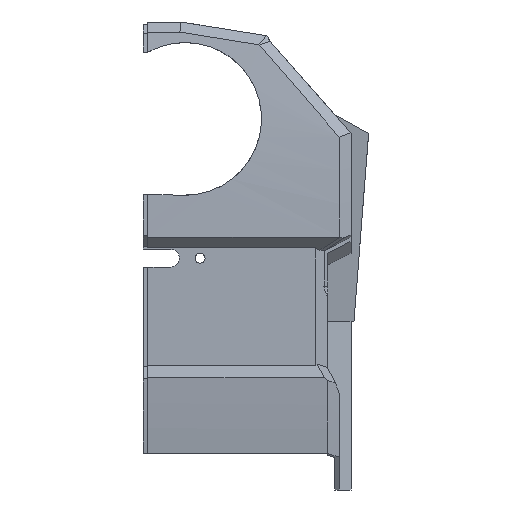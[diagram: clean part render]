
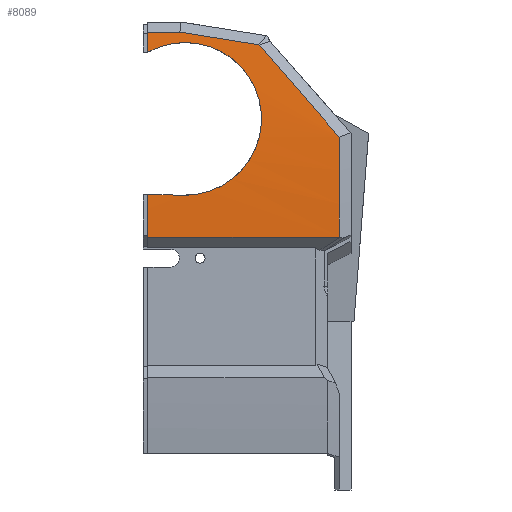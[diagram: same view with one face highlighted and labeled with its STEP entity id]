
A CAD part, left-side view. The second image highlights one B-rep face of the part: STEP entity #8089.
In plain terms, the highlighted cylindrical face has radius 500 mm (diameter 1000 mm), a partial arc.
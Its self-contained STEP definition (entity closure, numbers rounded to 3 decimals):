
#96=DIRECTION('',(0.,-1.,0.));
#97=VECTOR('',#96,65.25);
#98=CARTESIAN_POINT('',(-67.987,0.,3.656));
#99=LINE('',#98,#97);
#104=CARTESIAN_POINT('',(-67.987,-65.25,3.656));
#376=CARTESIAN_POINT('',(-63.537,0.,66.659));
#377=CARTESIAN_POINT('',(-63.432,-1.382,67.437));
#378=CARTESIAN_POINT('',(-63.253,-4.286,68.737));
#379=CARTESIAN_POINT('',(-63.095,-8.913,69.861));
#380=CARTESIAN_POINT('',(-63.058,-13.663,70.128));
#381=CARTESIAN_POINT('',(-63.142,-18.385,69.53));
#382=CARTESIAN_POINT('',(-63.344,-22.926,68.083));
#383=CARTESIAN_POINT('',(-63.65,-27.139,65.83));
#384=CARTESIAN_POINT('',(-64.039,-30.88,62.84));
#385=CARTESIAN_POINT('',(-64.487,-34.018,59.209));
#386=CARTESIAN_POINT('',(-64.965,-36.442,55.061));
#387=CARTESIAN_POINT('',(-65.447,-38.066,50.539));
#388=CARTESIAN_POINT('',(-65.906,-38.835,45.799));
#389=CARTESIAN_POINT('',(-66.324,-38.724,41.003));
#390=CARTESIAN_POINT('',(-66.687,-37.741,36.313));
#391=CARTESIAN_POINT('',(-66.988,-35.919,31.883));
#392=CARTESIAN_POINT('',(-67.228,-33.321,27.862));
#393=CARTESIAN_POINT('',(-67.409,-30.034,24.381));
#394=CARTESIAN_POINT('',(-67.537,-26.165,21.558));
#395=CARTESIAN_POINT('',(-67.621,-21.846,19.487));
#396=CARTESIAN_POINT('',(-67.667,-17.221,18.239));
#397=CARTESIAN_POINT('',(-67.676,-14.037,17.983));
#398=CARTESIAN_POINT('',(-67.676,-12.447,18.002));
#2819=CARTESIAN_POINT('',(432.,0.,0.));
#2820=DIRECTION('',(0.,-1.,0.));
#2821=DIRECTION('',(-0.989,0.,0.147));
#2822=AXIS2_PLACEMENT_3D('',#2819,#2820,#2821);
#2824=DIRECTION('',(0.,-1.,0.));
#2825=VECTOR('',#2824,10.932);
#2826=CARTESIAN_POINT('',(-62.555,0.,73.589));
#2827=LINE('',#2826,#2825);
#2828=CARTESIAN_POINT('',(-62.555,-10.932,
73.589));
#2829=CARTESIAN_POINT('',(-62.771,-19.91,
72.141));
#2830=CARTESIAN_POINT('',(-62.98,-28.898,
70.691));
#2831=CARTESIAN_POINT('',(-63.183,-37.894,
69.24));
#2833=CARTESIAN_POINT('',(-63.183,-37.894,
69.24));
#2834=CARTESIAN_POINT('',(-63.978,-42.845,
63.549));
#2835=CARTESIAN_POINT('',(-65.258,-51.949,
53.085));
#2836=CARTESIAN_POINT('',(-66.207,-61.089,
42.579));
#2837=CARTESIAN_POINT('',(-66.569,-65.25,
37.797));
#2839=CARTESIAN_POINT('',(432.,-65.25,0.));
#2840=DIRECTION('',(0.,-1.,0.));
#2841=DIRECTION('',(-0.997,0.,0.076));
#2842=AXIS2_PLACEMENT_3D('',#2839,#2840,#2841);
#2844=CARTESIAN_POINT('',(432.,0.,0.));
#2845=DIRECTION('',(0.,-1.,0.));
#2846=DIRECTION('',(-0.999,0.,0.036));
#2847=AXIS2_PLACEMENT_3D('',#2844,#2845,#2846);
#2849=CARTESIAN_POINT('',(-67.671,0.,
18.147));
#2850=CARTESIAN_POINT('',(-67.672,-4.149,
18.099));
#2851=CARTESIAN_POINT('',(-67.674,-8.298,
18.05));
#2852=CARTESIAN_POINT('',(-67.676,-12.447,
18.002));
#3682=CARTESIAN_POINT('',(-67.676,-12.447,
18.002));
#3684=VERTEX_POINT('',#3682);
#3829=VERTEX_POINT('',#2828);
#3830=VERTEX_POINT('',#2831);
#3833=VERTEX_POINT('',#2837);
#3839=VERTEX_POINT('',#104);
#4295=CARTESIAN_POINT('',(-62.555,0.,73.589));
#4296=CARTESIAN_POINT('',(-63.537,0.,66.659));
#4297=VERTEX_POINT('',#4295);
#4298=VERTEX_POINT('',#4296);
#4299=CARTESIAN_POINT('',(-67.671,0.,18.147));
#4300=CARTESIAN_POINT('',(-67.987,0.,3.656));
#4301=VERTEX_POINT('',#4299);
#4302=VERTEX_POINT('',#4300);
#8070=CARTESIAN_POINT('',(432.,-61.25,0.));
#8071=DIRECTION('',(0.,-1.,0.));
#8072=DIRECTION('',(1.,0.,0.));
#8073=AXIS2_PLACEMENT_3D('',#8070,#8071,#8072);
#8074=CYLINDRICAL_SURFACE('',#8073,500.);
#8075=ORIENTED_EDGE('',*,*,#4812,.F.);
#8077=ORIENTED_EDGE('',*,*,#8076,.T.);
#8079=ORIENTED_EDGE('',*,*,#8078,.T.);
#8080=ORIENTED_EDGE('',*,*,#8061,.T.);
#8082=ORIENTED_EDGE('',*,*,#8081,.T.);
#8083=ORIENTED_EDGE('',*,*,#4696,.F.);
#8084=ORIENTED_EDGE('',*,*,#4832,.F.);
#8085=ORIENTED_EDGE('',*,*,#5653,.T.);
#8086=ORIENTED_EDGE('',*,*,#5112,.F.);
#8087=EDGE_LOOP('',(#8075,#8077,#8079,#8080,#8082,#8083,#8084,#8085,#8086));
#8088=FACE_OUTER_BOUND('',#8087,.F.);
#8089=ADVANCED_FACE('',(#8088),#8074,.T.);
#399=B_SPLINE_CURVE_WITH_KNOTS('',3,(#376,#377,#378,#379,#380,#381,#382,#383,
#384,#385,#386,#387,#388,#389,#390,#391,#392,#393,#394,#395,#396,#397,#398),
.UNSPECIFIED.,.F.,.F.,(4,1,1,1,1,1,1,1,1,1,1,1,1,1,1,1,1,1,1,1,4),(0.,0.05,
0.1,0.15,0.2,0.25,0.3,0.35,0.4,0.45,0.5,0.55,0.6,0.65,
0.7,0.75,0.8,0.85,0.9,0.95,1.),.UNSPECIFIED.);
#2823=CIRCLE('',#2822,500.);
#2832=B_SPLINE_CURVE_WITH_KNOTS('',3,(#2828,#2829,#2830,#2831),.UNSPECIFIED.,
.F.,.F.,(4,4),(0.,1.),.UNSPECIFIED.);
#2838=B_SPLINE_CURVE_WITH_KNOTS('',3,(#2833,#2834,#2835,#2836,#2837),
.UNSPECIFIED.,.F.,.F.,(4,1,4),(0.,0.545,1.),.UNSPECIFIED.);
#2843=CIRCLE('',#2842,500.);
#2848=CIRCLE('',#2847,500.);
#2853=B_SPLINE_CURVE_WITH_KNOTS('',3,(#2849,#2850,#2851,#2852),.UNSPECIFIED.,
.F.,.F.,(4,4),(0.,1.),.UNSPECIFIED.);
#4696=EDGE_CURVE('',#4302,#3839,#99,.T.);
#4812=EDGE_CURVE('',#4297,#4298,#2823,.T.);
#4832=EDGE_CURVE('',#4301,#4302,#2848,.T.);
#5112=EDGE_CURVE('',#4298,#3684,#399,.T.);
#5653=EDGE_CURVE('',#4301,#3684,#2853,.T.);
#8061=EDGE_CURVE('',#3830,#3833,#2838,.T.);
#8076=EDGE_CURVE('',#4297,#3829,#2827,.T.);
#8078=EDGE_CURVE('',#3829,#3830,#2832,.T.);
#8081=EDGE_CURVE('',#3833,#3839,#2843,.T.);
